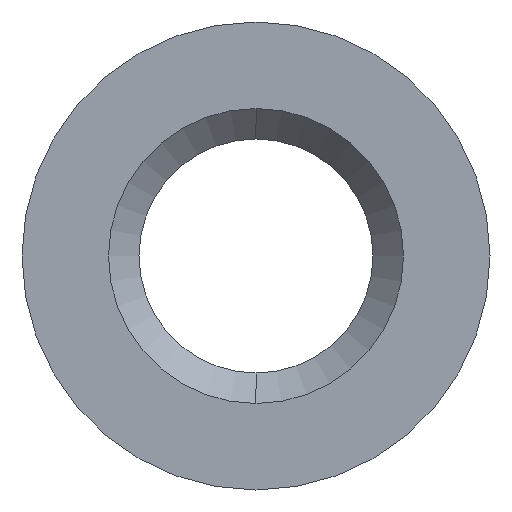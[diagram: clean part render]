
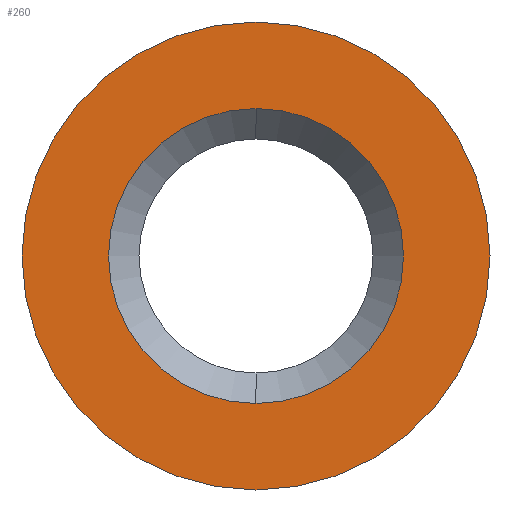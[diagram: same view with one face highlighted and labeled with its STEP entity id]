
A CAD part, left-side view. The second image highlights one B-rep face of the part: STEP entity #260.
In plain terms, the highlighted planar face has unit normal (-1, 0, 0).
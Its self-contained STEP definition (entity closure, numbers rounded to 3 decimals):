
#75 = EDGE_CURVE ( 'NONE', #78, #86, #1077, .T. ) ;
#78 = VERTEX_POINT ( 'NONE', #408 ) ;
#86 = VERTEX_POINT ( 'NONE', #475 ) ;
#111 = EDGE_CURVE ( 'NONE', #185, #112, #389, .T. ) ;
#112 = VERTEX_POINT ( 'NONE', #399 ) ;
#148 = EDGE_LOOP ( 'NONE', ( #149, #150 ) ) ;
#149 = ORIENTED_EDGE ( 'NONE', *, *, #75, .T. ) ;
#150 = ORIENTED_EDGE ( 'NONE', *, *, #151, .T. ) ;
#151 = EDGE_CURVE ( 'NONE', #86, #78, #373, .T. ) ;
#152 = EDGE_LOOP ( 'NONE', ( #153, #154 ) ) ;
#153 = ORIENTED_EDGE ( 'NONE', *, *, #259, .F. ) ;
#154 = ORIENTED_EDGE ( 'NONE', *, *, #111, .F. ) ;
#185 = VERTEX_POINT ( 'NONE', #579 ) ;
#259 = EDGE_CURVE ( 'NONE', #112, #185, #488, .T. ) ;
#260 = ADVANCED_FACE ( 'NONE', ( #482, #675 ), #674, .F. ) ;
#365 = DIRECTION ( 'NONE',  ( 0., 0., -1. ) ) ;
#366 = DIRECTION ( 'NONE',  ( 1., 0., 0. ) ) ;
#367 = CARTESIAN_POINT ( 'NONE',  ( 0., 0., 0. ) ) ;
#368 = AXIS2_PLACEMENT_3D ( 'NONE', #367, #366, #365 ) ;
#373 = CIRCLE ( 'NONE', #368, 1.45 ) ;
#385 = DIRECTION ( 'NONE',  ( 0., 0., -1. ) ) ;
#386 = DIRECTION ( 'NONE',  ( 1., 0., 0. ) ) ;
#387 = CARTESIAN_POINT ( 'NONE',  ( 0., 0., 0. ) ) ;
#388 = AXIS2_PLACEMENT_3D ( 'NONE', #387, #386, #385 ) ;
#389 = CIRCLE ( 'NONE', #388, 2.3 ) ;
#399 = CARTESIAN_POINT ( 'NONE',  ( 0., 0., 2.3 ) ) ;
#408 = CARTESIAN_POINT ( 'NONE',  ( 0., 0., 1.45 ) ) ;
#475 = CARTESIAN_POINT ( 'NONE',  ( 0., 0., -1.45 ) ) ;
#478 = DIRECTION ( 'NONE',  ( 0., 0., -1. ) ) ;
#479 = DIRECTION ( 'NONE',  ( 1., 0., 0. ) ) ;
#480 = CARTESIAN_POINT ( 'NONE',  ( 0., 0., 0. ) ) ;
#481 = AXIS2_PLACEMENT_3D ( 'NONE', #480, #479, #478 ) ;
#482 = FACE_BOUND ( 'NONE', #148, .T. ) ;
#488 = CIRCLE ( 'NONE', #481, 2.3 ) ;
#579 = CARTESIAN_POINT ( 'NONE',  ( 0., 0., -2.3 ) ) ;
#669 = DIRECTION ( 'NONE',  ( 0., 0., -1. ) ) ;
#670 = DIRECTION ( 'NONE',  ( 1., 0., 0. ) ) ;
#671 = CARTESIAN_POINT ( 'NONE',  ( 0., 0., 0. ) ) ;
#672 = AXIS2_PLACEMENT_3D ( 'NONE', #671, #670, #669 ) ;
#674 = PLANE ( 'NONE',  #672 ) ;
#675 = FACE_OUTER_BOUND ( 'NONE', #152, .T. ) ;
#1073 = DIRECTION ( 'NONE',  ( 0., 0., -1. ) ) ;
#1074 = DIRECTION ( 'NONE',  ( 1., 0., 0. ) ) ;
#1075 = CARTESIAN_POINT ( 'NONE',  ( 0., 0., 0. ) ) ;
#1076 = AXIS2_PLACEMENT_3D ( 'NONE', #1075, #1074, #1073 ) ;
#1077 = CIRCLE ( 'NONE', #1076, 1.45 ) ;
